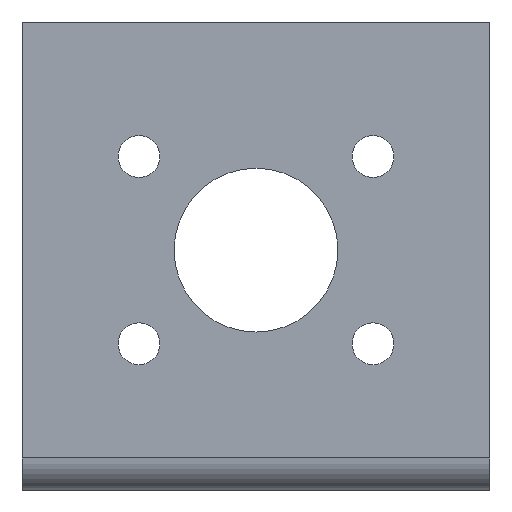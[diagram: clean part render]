
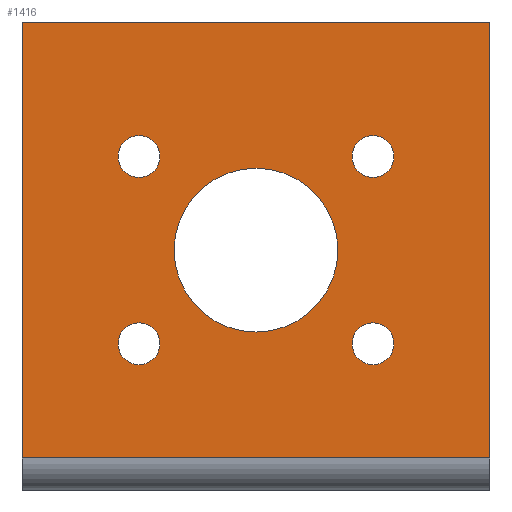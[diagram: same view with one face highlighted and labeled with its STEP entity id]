
A CAD part, front view. The second image highlights one B-rep face of the part: STEP entity #1416.
In plain terms, the highlighted planar face has unit normal (0, -1, 0).
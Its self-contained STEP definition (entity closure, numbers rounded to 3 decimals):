
#20 = AXIS2_PLACEMENT_3D ( 'NONE', #3694, #1816, #843 ) ;
#54 = ORIENTED_EDGE ( 'NONE', *, *, #3529, .T. ) ;
#72 = EDGE_CURVE ( 'NONE', #204, #2876, #3889, .T. ) ;
#110 = CIRCLE ( 'NONE', #20, 1.79 ) ;
#122 = EDGE_LOOP ( 'NONE', ( #1953, #1757, #1448, #806 ) ) ;
#138 = DIRECTION ( 'NONE',  ( 0., 1., 0. ) ) ;
#204 = VERTEX_POINT ( 'NONE', #1220 ) ;
#211 = CARTESIAN_POINT ( 'NONE',  ( 10., 35.999, 26.501 ) ) ;
#226 = DIRECTION ( 'NONE',  ( 1., 0., 0. ) ) ;
#286 = CARTESIAN_POINT ( 'NONE',  ( 40., 35.999, 38.001 ) ) ;
#396 = ORIENTED_EDGE ( 'NONE', *, *, #2878, .T. ) ;
#407 = ORIENTED_EDGE ( 'NONE', *, *, #2360, .T. ) ;
#449 = CARTESIAN_POINT ( 'NONE',  ( 31.79, 35.999, 26.501 ) ) ;
#497 = DIRECTION ( 'NONE',  ( 1., 0., 0. ) ) ;
#516 = FACE_BOUND ( 'NONE', #3997, .T. ) ;
#597 = CARTESIAN_POINT ( 'NONE',  ( 40., 35.999, 0.737 ) ) ;
#611 = CARTESIAN_POINT ( 'NONE',  ( 8.21, 35.999, 26.501 ) ) ;
#654 = DIRECTION ( 'NONE',  ( 0., 1., 0. ) ) ;
#713 = EDGE_CURVE ( 'NONE', #3353, #3550, #3801, .T. ) ;
#735 = CIRCLE ( 'NONE', #2303, 1.79 ) ;
#737 = DIRECTION ( 'NONE',  ( 0., 1., 0. ) ) ;
#770 = CARTESIAN_POINT ( 'NONE',  ( 20., 35.999, 18.501 ) ) ;
#772 = EDGE_CURVE ( 'NONE', #2197, #3800, #1294, .T. ) ;
#776 = CARTESIAN_POINT ( 'NONE',  ( 30., 35.999, 10.501 ) ) ;
#787 = CARTESIAN_POINT ( 'NONE',  ( 27., 35.999, 18.501 ) ) ;
#788 = ORIENTED_EDGE ( 'NONE', *, *, #2153, .T. ) ;
#792 = DIRECTION ( 'NONE',  ( 0., 1., 0. ) ) ;
#806 = ORIENTED_EDGE ( 'NONE', *, *, #72, .F. ) ;
#812 = AXIS2_PLACEMENT_3D ( 'NONE', #1999, #737, #2328 ) ;
#817 = FACE_BOUND ( 'NONE', #3382, .T. ) ;
#843 = DIRECTION ( 'NONE',  ( 1., 0., 0. ) ) ;
#854 = DIRECTION ( 'NONE',  ( 0., 1., 0. ) ) ;
#855 = DIRECTION ( 'NONE',  ( 0., 1., 0. ) ) ;
#921 = AXIS2_PLACEMENT_3D ( 'NONE', #2392, #855, #3061 ) ;
#923 = VERTEX_POINT ( 'NONE', #1214 ) ;
#1020 = VECTOR ( 'NONE', #1560, 1000. ) ;
#1077 = CARTESIAN_POINT ( 'NONE',  ( 40., 35.999, 38.001 ) ) ;
#1164 = CARTESIAN_POINT ( 'NONE',  ( 30., 35.999, 26.501 ) ) ;
#1177 = DIRECTION ( 'NONE',  ( 1., 0., 0. ) ) ;
#1214 = CARTESIAN_POINT ( 'NONE',  ( 0., 35.999, 0.737 ) ) ;
#1220 = CARTESIAN_POINT ( 'NONE',  ( 0., 35.999, 38.001 ) ) ;
#1232 = CIRCLE ( 'NONE', #1833, 1.79 ) ;
#1262 = CARTESIAN_POINT ( 'NONE',  ( 30., 35.999, 26.501 ) ) ;
#1272 = VERTEX_POINT ( 'NONE', #449 ) ;
#1287 = VERTEX_POINT ( 'NONE', #3606 ) ;
#1294 = CIRCLE ( 'NONE', #3534, 1.79 ) ;
#1416 = ADVANCED_FACE ( 'NONE', ( #516, #3653, #817, #3605, #2695, #2743 ), #1811, .T. ) ;
#1448 = ORIENTED_EDGE ( 'NONE', *, *, #2502, .F. ) ;
#1450 = DIRECTION ( 'NONE',  ( 0., 1., 0. ) ) ;
#1501 = DIRECTION ( 'NONE',  ( 1., 0., 0. ) ) ;
#1524 = EDGE_CURVE ( 'NONE', #923, #2493, #2444, .T. ) ;
#1560 = DIRECTION ( 'NONE',  ( 0., 0., -1. ) ) ;
#1568 = CARTESIAN_POINT ( 'NONE',  ( 13., 35.999, 18.501 ) ) ;
#1569 = CIRCLE ( 'NONE', #812, 7. ) ;
#1580 = DIRECTION ( 'NONE',  ( 1., 0., 0. ) ) ;
#1590 = LINE ( 'NONE', #3655, #2224 ) ;
#1593 = AXIS2_PLACEMENT_3D ( 'NONE', #3076, #2141, #1501 ) ;
#1597 = CARTESIAN_POINT ( 'NONE',  ( 0., 35.999, 38.001 ) ) ;
#1757 = ORIENTED_EDGE ( 'NONE', *, *, #1524, .T. ) ;
#1785 = CIRCLE ( 'NONE', #3585, 1.79 ) ;
#1811 = PLANE ( 'NONE',  #4023 ) ;
#1816 = DIRECTION ( 'NONE',  ( 0., 1., 0. ) ) ;
#1833 = AXIS2_PLACEMENT_3D ( 'NONE', #776, #792, #497 ) ;
#1844 = EDGE_CURVE ( 'NONE', #1272, #1287, #1785, .T. ) ;
#1866 = ORIENTED_EDGE ( 'NONE', *, *, #3513, .T. ) ;
#1953 = ORIENTED_EDGE ( 'NONE', *, *, #3586, .F. ) ;
#1991 = EDGE_LOOP ( 'NONE', ( #788, #1866 ) ) ;
#1999 = CARTESIAN_POINT ( 'NONE',  ( 20., 35.999, 18.501 ) ) ;
#2069 = EDGE_LOOP ( 'NONE', ( #396, #2802 ) ) ;
#2109 = CARTESIAN_POINT ( 'NONE',  ( 11.79, 35.999, 10.501 ) ) ;
#2141 = DIRECTION ( 'NONE',  ( 0., 1., 0. ) ) ;
#2153 = EDGE_CURVE ( 'NONE', #3915, #3198, #735, .T. ) ;
#2197 = VERTEX_POINT ( 'NONE', #2109 ) ;
#2213 = CARTESIAN_POINT ( 'NONE',  ( 31.79, 35.999, 10.501 ) ) ;
#2224 = VECTOR ( 'NONE', #3963, 1000. ) ;
#2296 = CIRCLE ( 'NONE', #3417, 7. ) ;
#2303 = AXIS2_PLACEMENT_3D ( 'NONE', #211, #1450, #3634 ) ;
#2328 = DIRECTION ( 'NONE',  ( 1., 0., 0. ) ) ;
#2335 = DIRECTION ( 'NONE',  ( 1., 0., 0. ) ) ;
#2360 = EDGE_CURVE ( 'NONE', #1287, #1272, #3907, .T. ) ;
#2392 = CARTESIAN_POINT ( 'NONE',  ( 10., 35.999, 26.501 ) ) ;
#2422 = DIRECTION ( 'NONE',  ( 1., 0., 0. ) ) ;
#2444 = LINE ( 'NONE', #3936, #2971 ) ;
#2460 = DIRECTION ( 'NONE',  ( 0., 1., 0. ) ) ;
#2493 = VERTEX_POINT ( 'NONE', #597 ) ;
#2502 = EDGE_CURVE ( 'NONE', #2876, #2493, #2804, .T. ) ;
#2503 = ORIENTED_EDGE ( 'NONE', *, *, #772, .T. ) ;
#2611 = CARTESIAN_POINT ( 'NONE',  ( 11.79, 35.999, 26.501 ) ) ;
#2695 = FACE_BOUND ( 'NONE', #1991, .T. ) ;
#2713 = EDGE_CURVE ( 'NONE', #3643, #2869, #1569, .T. ) ;
#2743 = FACE_OUTER_BOUND ( 'NONE', #122, .T. ) ;
#2756 = CARTESIAN_POINT ( 'NONE',  ( 0., 35.999, 38.001 ) ) ;
#2776 = DIRECTION ( 'NONE',  ( -1., 0., 0. ) ) ;
#2802 = ORIENTED_EDGE ( 'NONE', *, *, #2713, .T. ) ;
#2804 = LINE ( 'NONE', #286, #1020 ) ;
#2869 = VERTEX_POINT ( 'NONE', #787 ) ;
#2876 = VERTEX_POINT ( 'NONE', #1077 ) ;
#2878 = EDGE_CURVE ( 'NONE', #2869, #3643, #2296, .T. ) ;
#2883 = ORIENTED_EDGE ( 'NONE', *, *, #1844, .T. ) ;
#2963 = EDGE_LOOP ( 'NONE', ( #3742, #3602 ) ) ;
#2965 = DIRECTION ( 'NONE',  ( 1., 0., 0. ) ) ;
#2971 = VECTOR ( 'NONE', #2422, 1000. ) ;
#3061 = DIRECTION ( 'NONE',  ( 1., 0., 0. ) ) ;
#3075 = VECTOR ( 'NONE', #2965, 1000. ) ;
#3076 = CARTESIAN_POINT ( 'NONE',  ( 30., 35.999, 10.501 ) ) ;
#3169 = CARTESIAN_POINT ( 'NONE',  ( 8.21, 35.999, 10.501 ) ) ;
#3198 = VERTEX_POINT ( 'NONE', #611 ) ;
#3353 = VERTEX_POINT ( 'NONE', #2213 ) ;
#3382 = EDGE_LOOP ( 'NONE', ( #2883, #407 ) ) ;
#3396 = CARTESIAN_POINT ( 'NONE',  ( 10., 35.999, 10.501 ) ) ;
#3417 = AXIS2_PLACEMENT_3D ( 'NONE', #770, #138, #2335 ) ;
#3513 = EDGE_CURVE ( 'NONE', #3198, #3915, #3644, .T. ) ;
#3529 = EDGE_CURVE ( 'NONE', #3800, #2197, #110, .T. ) ;
#3534 = AXIS2_PLACEMENT_3D ( 'NONE', #3396, #854, #1177 ) ;
#3550 = VERTEX_POINT ( 'NONE', #3951 ) ;
#3585 = AXIS2_PLACEMENT_3D ( 'NONE', #1262, #654, #1580 ) ;
#3586 = EDGE_CURVE ( 'NONE', #923, #204, #1590, .T. ) ;
#3602 = ORIENTED_EDGE ( 'NONE', *, *, #3953, .T. ) ;
#3605 = FACE_BOUND ( 'NONE', #2069, .T. ) ;
#3606 = CARTESIAN_POINT ( 'NONE',  ( 28.21, 35.999, 26.501 ) ) ;
#3634 = DIRECTION ( 'NONE',  ( 1., 0., 0. ) ) ;
#3643 = VERTEX_POINT ( 'NONE', #1568 ) ;
#3644 = CIRCLE ( 'NONE', #921, 1.79 ) ;
#3653 = FACE_BOUND ( 'NONE', #2963, .T. ) ;
#3655 = CARTESIAN_POINT ( 'NONE',  ( 0., 35.999, 38.001 ) ) ;
#3686 = DIRECTION ( 'NONE',  ( 0., -1., 0. ) ) ;
#3694 = CARTESIAN_POINT ( 'NONE',  ( 10., 35.999, 10.501 ) ) ;
#3742 = ORIENTED_EDGE ( 'NONE', *, *, #713, .T. ) ;
#3800 = VERTEX_POINT ( 'NONE', #3169 ) ;
#3801 = CIRCLE ( 'NONE', #1593, 1.79 ) ;
#3839 = AXIS2_PLACEMENT_3D ( 'NONE', #1164, #2460, #226 ) ;
#3889 = LINE ( 'NONE', #1597, #3075 ) ;
#3907 = CIRCLE ( 'NONE', #3839, 1.79 ) ;
#3915 = VERTEX_POINT ( 'NONE', #2611 ) ;
#3936 = CARTESIAN_POINT ( 'NONE',  ( 0., 35.999, 0.737 ) ) ;
#3951 = CARTESIAN_POINT ( 'NONE',  ( 28.21, 35.999, 10.501 ) ) ;
#3953 = EDGE_CURVE ( 'NONE', #3550, #3353, #1232, .T. ) ;
#3963 = DIRECTION ( 'NONE',  ( 0., 0., 1. ) ) ;
#3997 = EDGE_LOOP ( 'NONE', ( #2503, #54 ) ) ;
#4023 = AXIS2_PLACEMENT_3D ( 'NONE', #2756, #3686, #2776 ) ;
